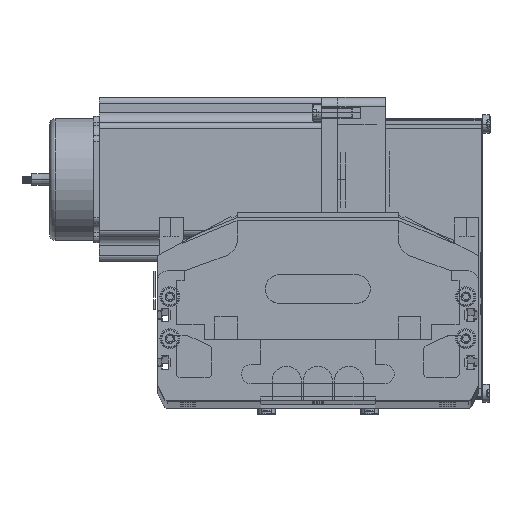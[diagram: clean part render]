
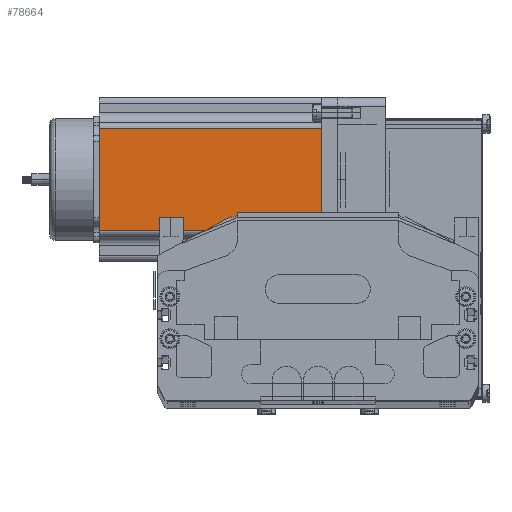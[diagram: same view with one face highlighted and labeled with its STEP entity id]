
A CAD part, top view. The second image highlights one B-rep face of the part: STEP entity #78664.
In plain terms, the highlighted planar face has unit normal (0, 0, 1) as drawn and (0, -1, 0) by its records, which use the part's own axes.
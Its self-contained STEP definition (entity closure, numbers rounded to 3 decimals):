
#1345 = CARTESIAN_POINT ( 'NONE',  ( 16.16, 0., 116.5 ) ) ;
#1393 = DIRECTION ( 'NONE',  ( 0., 0., 1. ) ) ;
#1394 = VECTOR ( 'NONE', #1393, 1000. ) ;
#1395 = CARTESIAN_POINT ( 'NONE',  ( 69.74, 0., 116.5 ) ) ;
#1396 = LINE ( 'NONE', #1395, #1394 ) ;
#1442 = DIRECTION ( 'NONE',  ( 0., 0., 1. ) ) ;
#1443 = DIRECTION ( 'NONE',  ( 0., 1., 0. ) ) ;
#1444 = CARTESIAN_POINT ( 'NONE',  ( 0., 0., 116.5 ) ) ;
#1448 = FACE_OUTER_BOUND ( 'NONE', #78655, .T. ) ;
#1449 = CARTESIAN_POINT ( 'NONE',  ( 69.74, 0., 0. ) ) ;
#1493 = DIRECTION ( 'NONE',  ( 1., 0., 0. ) ) ;
#1494 = VECTOR ( 'NONE', #1493, 1000. ) ;
#1496 = PLANE ( 'NONE',  #1499 ) ;
#1499 = AXIS2_PLACEMENT_3D ( 'NONE', #1444, #1443, #1442 ) ;
#1514 = CARTESIAN_POINT ( 'NONE',  ( 16.16, 0., 0. ) ) ;
#1519 = CARTESIAN_POINT ( 'NONE',  ( 0., 0., 0. ) ) ;
#1521 = LINE ( 'NONE', #1519, #1494 ) ;
#49848 = LINE ( 'NONE', #50083, #49995 ) ;
#49972 = DIRECTION ( 'NONE',  ( 1., 0., 0. ) ) ;
#49995 = VECTOR ( 'NONE', #49972, 1000. ) ;
#50083 = CARTESIAN_POINT ( 'NONE',  ( 0., 0., 116.5 ) ) ;
#50670 = CARTESIAN_POINT ( 'NONE',  ( 69.74, 0., 116.5 ) ) ;
#50868 = DIRECTION ( 'NONE',  ( 0., 0., -1. ) ) ;
#50869 = VECTOR ( 'NONE', #50868, 1000. ) ;
#50930 = CARTESIAN_POINT ( 'NONE',  ( 16.16, 0., 116.5 ) ) ;
#50931 = LINE ( 'NONE', #50930, #50869 ) ;
#78655 = EDGE_LOOP ( 'NONE', ( #78657, #78771, #78848, #78844 ) ) ;
#78656 = EDGE_CURVE ( 'NONE', #78662, #78843, #1396, .T. ) ;
#78657 = ORIENTED_EDGE ( 'NONE', *, *, #78658, .T. ) ;
#78658 = EDGE_CURVE ( 'NONE', #78661, #78662, #1521, .T. ) ;
#78661 = VERTEX_POINT ( 'NONE', #1514 ) ;
#78662 = VERTEX_POINT ( 'NONE', #1449 ) ;
#78664 = ADVANCED_FACE ( 'NONE', ( #1448 ), #1496, .F. ) ;
#78667 = VERTEX_POINT ( 'NONE', #1345 ) ;
#78771 = ORIENTED_EDGE ( 'NONE', *, *, #78656, .T. ) ;
#78772 = EDGE_CURVE ( 'NONE', #78667, #78843, #49848, .T. ) ;
#78843 = VERTEX_POINT ( 'NONE', #50670 ) ;
#78844 = ORIENTED_EDGE ( 'NONE', *, *, #78849, .T. ) ;
#78848 = ORIENTED_EDGE ( 'NONE', *, *, #78772, .F. ) ;
#78849 = EDGE_CURVE ( 'NONE', #78667, #78661, #50931, .T. ) ;
